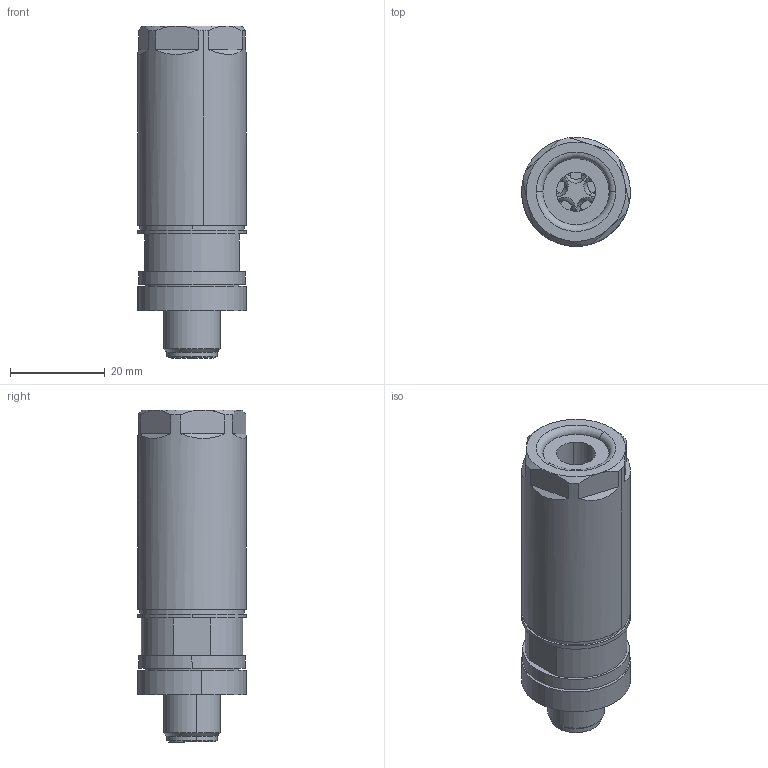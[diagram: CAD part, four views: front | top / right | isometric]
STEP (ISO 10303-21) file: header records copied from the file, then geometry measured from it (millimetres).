
FILE_DESCRIPTION(('Creo Elements/Direct Modeling STEP Export'),'2;1');
FILE_NAME('C:/Temp/JobServerData/JobServer Files/960fceaa-ed13-434e-b04e-92053a409485/work/output/model.stp','2021-10-11T 9:42:39',(''),(''),'Creo Elements/Direct Modeling STEP processor for AP214 (Solid Model)','Creo Elements/Direct Modeling 20.1D 10-Oct-2020 (C) Parametric Technology GmbH','');
FILE_SCHEMA(('AUTOMOTIVE_DESIGN { 1 0 10303 214 1 1 1 1 }'));
Length unit declared in the file: millimetre
Products named in the file (3): SACC_MK_4PEPL-select; SACC_M12MS-select; SACC_M12MSK_4PEPL_CL-select
Assembly tree (2 placements, depth 2):
  SACC_M12MSK_4PEPL_CL-select
    SACC_M12MS-select
    SACC_MK_4PEPL-select
Bounding box: 23 x 23 x 70.2 mm (x, y, z)
Volume: 18836 mm3; surface area: 12654.2 mm2
Topology: 2 solids, 2 shells, 516 faces, 1373 edges, 906 vertices
Faces by surface type: plane 276, cylinder 177, cone 31, torus 23, extrusion 9
Entity records: 21654 total; most frequent: CARTESIAN_POINT 7029, ORIENTED_EDGE 2746, DIRECTION 2487, EDGE_CURVE 1373, VERTEX_POINT 906, AXIS2_PLACEMENT_3D 849, VECTOR 789, LINE 780
